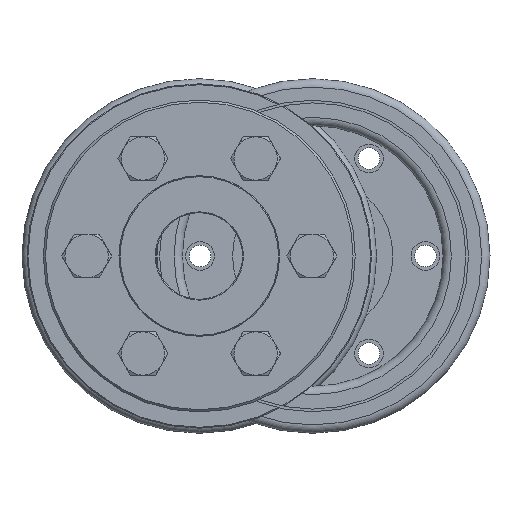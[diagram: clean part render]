
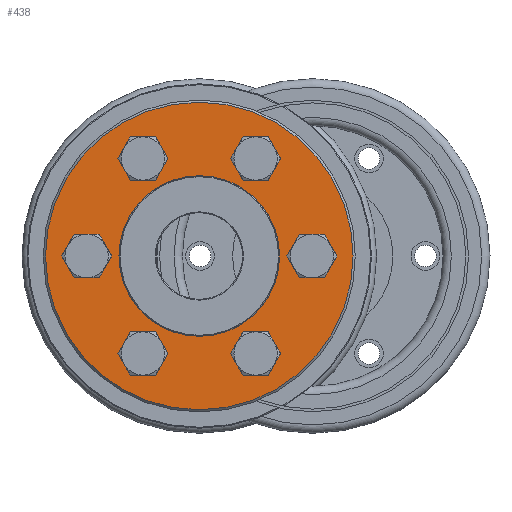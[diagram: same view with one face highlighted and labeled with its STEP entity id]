
A CAD part, left-side view. The second image highlights one B-rep face of the part: STEP entity #438.
In plain terms, the highlighted planar face has unit normal (-1, 0, 0).
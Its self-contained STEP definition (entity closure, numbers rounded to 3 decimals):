
#438 = ADVANCED_FACE( 'NONE', ( #811, #812, #813, #814, #815, #816, #817, #818 ), #819, .F. );
#811 = FACE_OUTER_BOUND( '', #1131, .T. );
#812 = FACE_BOUND( '', #1132, .T. );
#813 = FACE_BOUND( '', #1133, .T. );
#814 = FACE_BOUND( '', #1134, .T. );
#815 = FACE_BOUND( '', #1135, .T. );
#816 = FACE_BOUND( '', #1136, .T. );
#817 = FACE_BOUND( '', #1137, .T. );
#818 = FACE_BOUND( '', #1138, .T. );
#819 = PLANE( '', #1139 );
#1131 = EDGE_LOOP( '', ( #1616 ) );
#1132 = EDGE_LOOP( '', ( #1617 ) );
#1133 = EDGE_LOOP( '', ( #1618 ) );
#1134 = EDGE_LOOP( '', ( #1619 ) );
#1135 = EDGE_LOOP( '', ( #1620 ) );
#1136 = EDGE_LOOP( '', ( #1621 ) );
#1137 = EDGE_LOOP( '', ( #1622 ) );
#1138 = EDGE_LOOP( '', ( #1623 ) );
#1139 = AXIS2_PLACEMENT_3D( '', #1624, #1625, #1626 );
#1616 = ORIENTED_EDGE( '', *, *, #1877, .T. );
#1617 = ORIENTED_EDGE( '', *, *, #1876, .T. );
#1618 = ORIENTED_EDGE( '', *, *, #1878, .T. );
#1619 = ORIENTED_EDGE( '', *, *, #1879, .T. );
#1620 = ORIENTED_EDGE( '', *, *, #1880, .T. );
#1621 = ORIENTED_EDGE( '', *, *, #1881, .T. );
#1622 = ORIENTED_EDGE( '', *, *, #1882, .T. );
#1623 = ORIENTED_EDGE( '', *, *, #1883, .F. );
#1624 = CARTESIAN_POINT( '', ( 0., 18.5, 0. ) );
#1625 = DIRECTION( '', ( 1., 0., 0. ) );
#1626 = DIRECTION( '', ( 0., 1., 0. ) );
#1876 = EDGE_CURVE( 'NONE', #2088, #2088, #2089, .T. );
#1877 = EDGE_CURVE( 'NONE', #2090, #2090, #2091, .T. );
#1878 = EDGE_CURVE( 'NONE', #2092, #2092, #2093, .T. );
#1879 = EDGE_CURVE( 'NONE', #2094, #2094, #2095, .T. );
#1880 = EDGE_CURVE( 'NONE', #2096, #2096, #2097, .T. );
#1881 = EDGE_CURVE( 'NONE', #2098, #2098, #2099, .T. );
#1882 = EDGE_CURVE( 'NONE', #2100, #2100, #2101, .T. );
#1883 = EDGE_CURVE( 'NONE', #2102, #2102, #2103, .T. );
#2088 = VERTEX_POINT( '', #2276 );
#2089 = CIRCLE( '', #2277, 3.3 );
#2090 = VERTEX_POINT( '', #2278 );
#2091 = CIRCLE( '', #2279, 35.5 );
#2092 = VERTEX_POINT( '', #2280 );
#2093 = CIRCLE( '', #2281, 3.3 );
#2094 = VERTEX_POINT( '', #2282 );
#2095 = CIRCLE( '', #2283, 3.3 );
#2096 = VERTEX_POINT( '', #2284 );
#2097 = CIRCLE( '', #2285, 3.3 );
#2098 = VERTEX_POINT( '', #2286 );
#2099 = CIRCLE( '', #2287, 3.3 );
#2100 = VERTEX_POINT( '', #2288 );
#2101 = CIRCLE( '', #2289, 3.3 );
#2102 = VERTEX_POINT( '', #2290 );
#2103 = CIRCLE( '', #2291, 18.5 );
#2276 = CARTESIAN_POINT( '', ( 0., 13., 19.217 ) );
#2277 = AXIS2_PLACEMENT_3D( '', #2543, #2544, #2545 );
#2278 = CARTESIAN_POINT( '', ( 0., 0., -35.5 ) );
#2279 = AXIS2_PLACEMENT_3D( '', #2546, #2547, #2548 );
#2280 = CARTESIAN_POINT( '', ( 0., -13., 19.217 ) );
#2281 = AXIS2_PLACEMENT_3D( '', #2549, #2550, #2551 );
#2282 = CARTESIAN_POINT( '', ( 0., -26., -3.3 ) );
#2283 = AXIS2_PLACEMENT_3D( '', #2552, #2553, #2554 );
#2284 = CARTESIAN_POINT( '', ( 0., -13., -25.817 ) );
#2285 = AXIS2_PLACEMENT_3D( '', #2555, #2556, #2557 );
#2286 = CARTESIAN_POINT( '', ( 0., 13., -25.817 ) );
#2287 = AXIS2_PLACEMENT_3D( '', #2558, #2559, #2560 );
#2288 = CARTESIAN_POINT( '', ( 0., 26., -3.3 ) );
#2289 = AXIS2_PLACEMENT_3D( '', #2561, #2562, #2563 );
#2290 = CARTESIAN_POINT( '', ( 0., 0., 18.5 ) );
#2291 = AXIS2_PLACEMENT_3D( '', #2564, #2565, #2566 );
#2543 = CARTESIAN_POINT( '', ( 0., 13., 22.517 ) );
#2544 = DIRECTION( '', ( 1., 0., 0. ) );
#2545 = DIRECTION( '', ( 0., 0., -1. ) );
#2546 = CARTESIAN_POINT( '', ( 0., 0., 0. ) );
#2547 = DIRECTION( '', ( -1., 0., 0. ) );
#2548 = DIRECTION( '', ( 0., 0., -1. ) );
#2549 = CARTESIAN_POINT( '', ( 0., -13., 22.517 ) );
#2550 = DIRECTION( '', ( 1., 0., 0. ) );
#2551 = DIRECTION( '', ( 0., 0., -1. ) );
#2552 = CARTESIAN_POINT( '', ( 0., -26., 0. ) );
#2553 = DIRECTION( '', ( 1., 0., 0. ) );
#2554 = DIRECTION( '', ( 0., 0., -1. ) );
#2555 = CARTESIAN_POINT( '', ( 0., -13., -22.517 ) );
#2556 = DIRECTION( '', ( 1., 0., 0. ) );
#2557 = DIRECTION( '', ( 0., 0., -1. ) );
#2558 = CARTESIAN_POINT( '', ( 0., 13., -22.517 ) );
#2559 = DIRECTION( '', ( 1., 0., 0. ) );
#2560 = DIRECTION( '', ( 0., 0., -1. ) );
#2561 = CARTESIAN_POINT( '', ( 0., 26., 0. ) );
#2562 = DIRECTION( '', ( 1., 0., 0. ) );
#2563 = DIRECTION( '', ( 0., 0., -1. ) );
#2564 = CARTESIAN_POINT( '', ( 0., 0., 0. ) );
#2565 = DIRECTION( '', ( -1., 0., 0. ) );
#2566 = DIRECTION( '', ( 0., 0., 1. ) );
